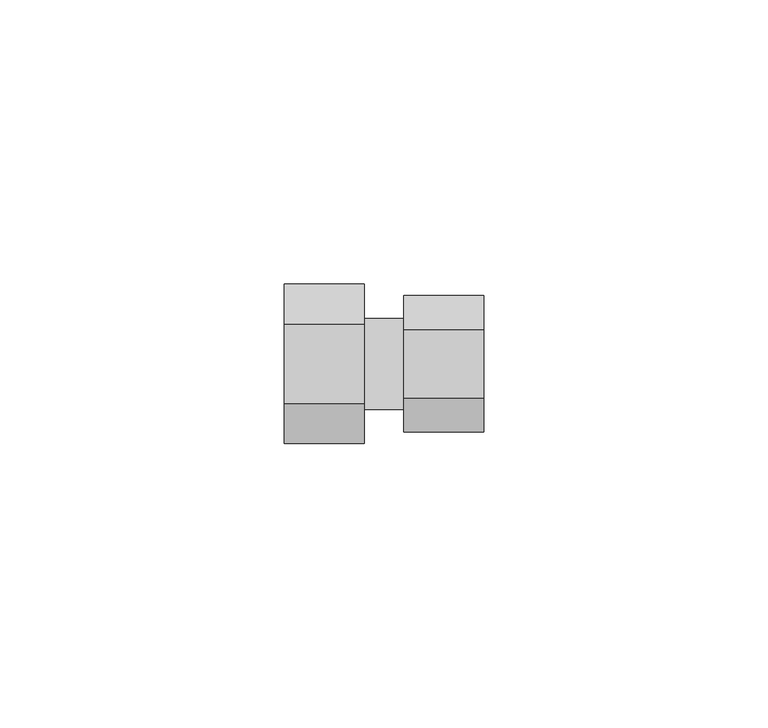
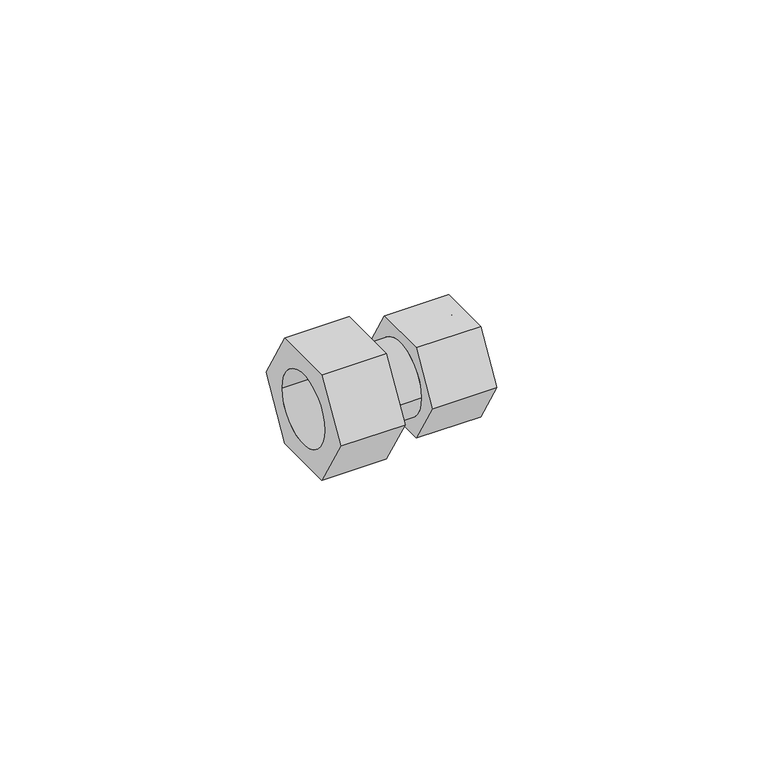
"""IFC4 building model written with IfcOpenShell, lengths in millimetres: pipe fitting geometry, БИР ПЕКС_КМП_Соединитель_Резьба_Внутренняя : Соединитель прямой с внутренней резьбой_КМП."""

from ifc_helpers import new_model, si_unit, point, frame, origin, origin_2d, place, context, project, spatial, polyline, circle_curve, trimmed, segment, composite_curve, outline, extrude, source, transform, mapped, element, save


def pipe_fitting_d29ec8fa(model_context):
    return source(origin(), model_context, "Body", "SweptSolid", [
        extrude(outline(polyline([(-7.0, -12.1243557), (-14.0, 0.0), (-7.0, 12.1243557), (7.0, 12.1243557), (14.0, 0.0), (7.0, -12.1243557), (-7.0, -12.1243557)]), holes=[composite_curve([segment(trimmed(circle_curve(origin_2d(), 8.0), [point((-8.0, 0.0))], [point((8.0, 0.0))], True, "CARTESIAN"), True, "CONTINUOUS"), segment(trimmed(circle_curve(origin_2d(), 8.0), [point((8.0, 0.0))], [point((-8.0, 0.0))], True, "CARTESIAN"), True, "CONTINUOUS")], self_intersect=False)]), frame((-21.0, 0.0, 0.0), z_axis=(1.0, 0.0, 0.0), x_axis=(0.0, 1.0, 0.0)), (0.0, 0.0, 1.0), 14.0),
        extrude(outline(polyline([(-6.0, -10.3923048), (-12.0, 0.0), (-6.0, 10.3923048), (6.0, 10.3923048), (12.0, 0.0), (6.0, -10.3923048), (-6.0, -10.3923048)]), holes=[composite_curve([segment(trimmed(circle_curve(origin_2d(), 8.0), [point((-8.0, 0.0))], [point((8.0, 0.0))], True, "CARTESIAN"), True, "CONTINUOUS"), segment(trimmed(circle_curve(origin_2d(), 8.0), [point((8.0, 0.0))], [point((-8.0, 0.0))], True, "CARTESIAN"), True, "CONTINUOUS")], self_intersect=False)]), frame((0.0, 0.0, 0.0), z_axis=(1.0, 0.0, 0.0), x_axis=(0.0, 1.0, 0.0)), (0.0, 0.0, 1.0), 14.0),
        extrude(outline(composite_curve([segment(trimmed(circle_curve(origin_2d(), 8.0), [point((-8.0, 0.0))], [point((8.0, 0.0))], False, "CARTESIAN"), True, "CONTINUOUS"), segment(trimmed(circle_curve(origin_2d(), 8.0), [point((8.0, 0.0))], [point((-8.0, 0.0))], False, "CARTESIAN"), True, "CONTINUOUS")], self_intersect=False)), frame((-7.0, 0.0, 0.0), z_axis=(1.0, 0.0, 0.0), x_axis=(0.0, 1.0, 0.0)), (0.0, 0.0, 1.0), 7.0),
    ])


if __name__ == "__main__":
    model = new_model("IFC4")
    model_context = context("Model", 3, world=origin())
    ifc_project = project(units=[si_unit("LENGTHUNIT", "METRE", prefix="MILLI")], contexts=[model_context])
    site = spatial("IfcSite", under=ifc_project)
    building = spatial("IfcBuilding", under=site)
    placement = place(None, origin())
    pipe_fitting_shape = pipe_fitting_d29ec8fa(model_context)
    element("IfcPipeFitting", 1, ObjectType="БИР ПЕКС_КМП_Соединитель_Резьба_Внутренняя : Соединитель прямой с внутренней резьбой_КМП", at=placement, inside=building, context=model_context, shape_type="MappedRepresentation", body=[
        mapped(pipe_fitting_shape, transform((0.0, 0.0, 0.0), x_axis=(1.0, 0.0, 0.0), y_axis=(0.0, 1.0, 0.0), z_axis=(0.0, 0.0, 1.0))),
    ])
    save(model, "model.ifc")
